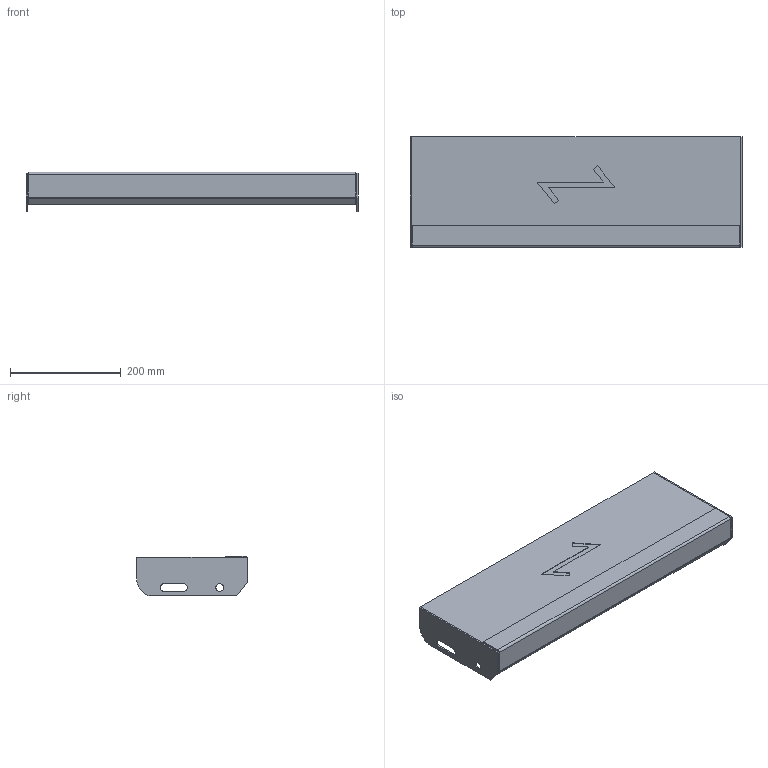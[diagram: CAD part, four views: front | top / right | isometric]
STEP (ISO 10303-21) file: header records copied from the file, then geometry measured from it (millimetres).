
FILE_DESCRIPTION (( 'STEP AP203' ), '1' );
FILE_NAME ('StegTH6-S-nya_steget-600x200.STEP', '2020-03-04T07:41:28', ( '' ), ( '' ), 'SwSTEP 2.0', 'SolidWorks 2019', '' );
FILE_SCHEMA (( 'CONFIG_CONTROL_DESIGN' ));
Length unit declared in the file: millimetre
Products named in the file (5): SW0000039403; SW0000038700; SW0000038778; StegTH6-S-nya_steget-600x200; SW0000039239
Assembly tree (5 placements, depth 3):
  StegTH6-S-nya_steget-600x200
    SW0000039403
      SW0000038778
      SW0000039239
      SW0000038700  x2
Bounding box: 600 x 200 x 72 mm (x, y, z)
Volume: 2257997.4 mm3; surface area: 411965.8 mm2
Topology: 4 solids, 4 shells, 67 faces, 158 edges, 100 vertices
Faces by surface type: plane 51, cylinder 16
Entity records: 2002 total; most frequent: DIRECTION 261, CARTESIAN_POINT 254, ORIENTED_EDGE 238, EDGE_CURVE 119, VECTOR 99, LINE 99, AXIS2_PLACEMENT_3D 81, VERTEX_POINT 74
